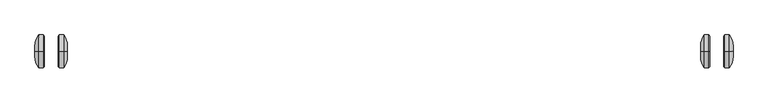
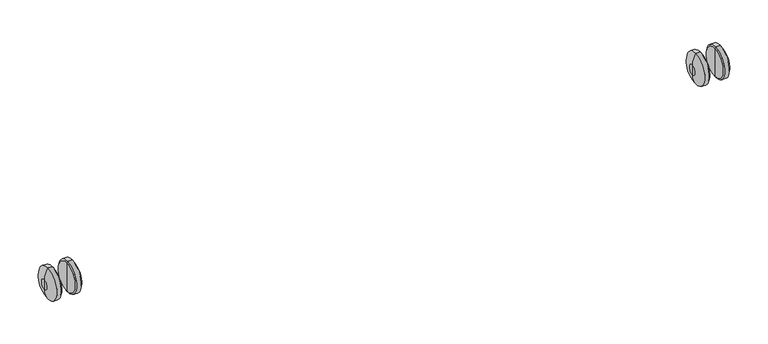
"""IFC4 building model written with IfcOpenShell, lengths in millimetres: furniture geometry, SmithSystem_AM_Table_Education_Elemental_NestAndFold_Nested_24D : 24D x 60W."""

from ifc_helpers import new_model, si_unit, point, frame, origin, place, context, project, spatial, polyline, circle_curve, ellipse_curve, trimmed, source, transform, mapped, element, save
from ifc_brep_helpers import plane_surface, cylinder_surface, revolved_surface, advanced_brep


def furniture_80580ba2(model_context):
    return source(origin(), model_context, "Body", "AdvancedBrep", [
        advanced_brep(
        [(1441.7769566, -565.7453125, 2.4213744), (1441.7769566, -565.7453125, 66.3180847), (1441.7769566, -565.7453125, 34.3697295), (1439.6062544, -565.7453125, -0.2937015), (1439.6062544, -565.7453125, 69.0331606), (1430.6015712, -565.7453125, -0.2937015), (1430.6015712, -565.7453125, 69.0331606), (1422.6841685, -565.7453125, 22.7879099), (1422.6841685, -565.7453125, 45.9515492), (1422.6841685, -565.7453125, 34.3697295)],
        [
            (0, 1, circle_curve(frame((1441.7769566, -565.7453125, 34.3697295), z_axis=(1.0, 0.0, 0.0), x_axis=(0.0, 0.0, 1.0)), 31.9483552)),
            (1, 2),
            (2, 0),
            (1, 0, circle_curve(frame((1441.7769566, -565.7453125, 34.3697295), z_axis=(1.0, 0.0, 0.0), x_axis=(0.0, 0.0, 1.0)), 31.9483552)),
            (3, 4, circle_curve(frame((1439.6062544, -565.7453125, 34.3697295), z_axis=(1.0, 0.0, 0.0), x_axis=(0.0, 0.0, 1.0)), 34.6634311)),
            (4, 1),
            (0, 3),
            (4, 3, circle_curve(frame((1439.6062544, -565.7453125, 34.3697295), z_axis=(1.0, 0.0, 0.0), x_axis=(0.0, 0.0, 1.0)), 34.6634311)),
            (5, 6, circle_curve(frame((1430.6015712, -565.7453125, 34.3697295), z_axis=(1.0, 0.0, 0.0), x_axis=(0.0, 0.0, 1.0)), 34.6634311)),
            (6, 4),
            (3, 5),
            (6, 5, circle_curve(frame((1430.6015712, -565.7453125, 34.3697295), z_axis=(1.0, 0.0, 0.0), x_axis=(0.0, 0.0, 1.0)), 34.6634311)),
            (7, 8, circle_curve(frame((1422.6841685, -565.7453125, 34.3697295), z_axis=(1.0, 0.0, 0.0), x_axis=(0.0, 0.0, 1.0)), 11.5818197)),
            (8, 6, circle_curve(frame((1460.2877916, -565.7453125, 45.9515492), z_axis=(0.0, 1.0, 0.0), x_axis=(1.0, 0.0, 0.0)), 37.6036231)),
            (5, 7, circle_curve(frame((1460.2877916, -565.7453125, 22.7879099), z_axis=(0.0, 1.0, 0.0), x_axis=(1.0, 0.0, 0.0)), 37.6036231)),
            (8, 7, circle_curve(frame((1422.6841685, -565.7453125, 34.3697295), z_axis=(1.0, 0.0, 0.0), x_axis=(0.0, 0.0, 1.0)), 11.5818197)),
            (9, 8),
            (7, 9),
        ],
        [
            plane_surface(frame((1441.7769566, -565.7453125, 34.3697295), z_axis=(1.0, 0.0, 0.0), x_axis=(0.0, 0.0, 1.0))),
            revolved_surface(polyline([(1441.7769566, -565.7453125, 66.3180847), (1439.6062544, -565.7453125, 69.0331606)]), (1422.6841685, -565.7453125, 34.3697295), (-1.0, 0.0, 0.0)),
            cylinder_surface(frame((1422.6841685, -565.7453125, 34.3697295), z_axis=(-1.0, 0.0, 0.0), x_axis=(0.0, 0.0, 1.0)), 34.6634311),
            revolved_surface(trimmed(ellipse_curve(frame((1460.2877916, -565.7453125, 45.9515492), z_axis=(0.0, -1.0, 0.0), x_axis=(1.0, 0.0, 0.0)), 37.6036231, 37.6036231), [point((1430.6015712, -565.7453125, 69.0331606))], [point((1422.6841685, -565.7453125, 45.9515492))], True, "CARTESIAN"), (1422.6841685, -565.7453125, 34.3697295), (-1.0, 0.0, 0.0)),
            plane_surface(frame((1422.6841685, -565.7453125, 34.3697295), z_axis=(-1.0, 0.0, 0.0), x_axis=(0.0, 0.0, 1.0))),
        ],
        [
            (0, [[1, 2, 3]]),
            (0, [[4, -3, -2]]),
            (1, [[5, 6, -1, 7]]),
            (1, [[8, -7, -4, -6]]),
            (2, [[9, 10, -5, 11]]),
            (2, [[12, -11, -8, -10]]),
            (3, [[13, 14, -9, 15]]),
            (3, [[16, -15, -12, -14]]),
            (4, [[17, -13, 18]]),
            (4, [[-18, -16, -17]]),
        ],
    ),
        advanced_brep(
        [(1490.4247373, -565.7453125, 22.7879099), (1490.4247373, -565.7453125, 45.9515492), (1490.4247373, -565.7453125, 34.3697295), (1482.5073346, -565.7453125, -0.2937015), (1482.5073346, -565.7453125, 69.0331606), (1473.5026514, -565.7453125, -0.2937015), (1473.5026514, -565.7453125, 69.0331606), (1471.3319492, -565.7453125, 2.4213744), (1471.3319492, -565.7453125, 66.3180847), (1471.3319492, -565.7453125, 34.3697295)],
        [
            (0, 1, circle_curve(frame((1490.4247373, -565.7453125, 34.3697295), z_axis=(1.0, 0.0, 0.0), x_axis=(0.0, 0.0, 1.0)), 11.5818197)),
            (1, 2),
            (2, 0),
            (1, 0, circle_curve(frame((1490.4247373, -565.7453125, 34.3697295), z_axis=(1.0, 0.0, 0.0), x_axis=(0.0, 0.0, 1.0)), 11.5818197)),
            (3, 4, circle_curve(frame((1482.5073346, -565.7453125, 34.3697295), z_axis=(1.0, 0.0, 0.0), x_axis=(0.0, 0.0, 1.0)), 34.6634311)),
            (4, 1, circle_curve(frame((1452.8211142, -565.7453125, 45.9515492), z_axis=(0.0, 1.0, 0.0), x_axis=(1.0, 0.0, 0.0)), 37.6036231)),
            (0, 3, circle_curve(frame((1452.8211142, -565.7453125, 22.7879099), z_axis=(0.0, 1.0, 0.0), x_axis=(1.0, 0.0, 0.0)), 37.6036231)),
            (4, 3, circle_curve(frame((1482.5073346, -565.7453125, 34.3697295), z_axis=(1.0, 0.0, 0.0), x_axis=(0.0, 0.0, 1.0)), 34.6634311)),
            (5, 6, circle_curve(frame((1473.5026514, -565.7453125, 34.3697295), z_axis=(1.0, 0.0, 0.0), x_axis=(0.0, 0.0, 1.0)), 34.6634311)),
            (6, 4),
            (3, 5),
            (6, 5, circle_curve(frame((1473.5026514, -565.7453125, 34.3697295), z_axis=(1.0, 0.0, 0.0), x_axis=(0.0, 0.0, 1.0)), 34.6634311)),
            (7, 8, circle_curve(frame((1471.3319492, -565.7453125, 34.3697295), z_axis=(1.0, 0.0, 0.0), x_axis=(0.0, 0.0, 1.0)), 31.9483552)),
            (8, 6),
            (5, 7),
            (8, 7, circle_curve(frame((1471.3319492, -565.7453125, 34.3697295), z_axis=(1.0, 0.0, 0.0), x_axis=(0.0, 0.0, 1.0)), 31.9483552)),
            (9, 8),
            (7, 9),
        ],
        [
            plane_surface(frame((1490.4247373, -565.7453125, 34.3697295), z_axis=(1.0, 0.0, 0.0), x_axis=(0.0, 0.0, 1.0))),
            revolved_surface(trimmed(ellipse_curve(frame((1452.8211142, -565.7453125, 45.9515492), z_axis=(0.0, -1.0, 0.0), x_axis=(1.0, 0.0, 0.0)), 37.6036231, 37.6036231), [point((1490.4247373, -565.7453125, 45.9515492))], [point((1482.5073346, -565.7453125, 69.0331606))], True, "CARTESIAN"), (1422.6841685, -565.7453125, 34.3697295), (-1.0, 0.0, 0.0)),
            cylinder_surface(frame((1422.6841685, -565.7453125, 34.3697295), z_axis=(-1.0, 0.0, 0.0), x_axis=(0.0, 0.0, 1.0)), 34.6634311),
            revolved_surface(polyline([(1473.5026514, -565.7453125, 69.0331606), (1471.3319492, -565.7453125, 66.3180847)]), (1422.6841685, -565.7453125, 34.3697295), (-1.0, 0.0, 0.0)),
            plane_surface(frame((1471.3319492, -565.7453125, 34.3697295), z_axis=(-1.0, 0.0, 0.0), x_axis=(0.0, 0.0, 1.0))),
        ],
        [
            (0, [[1, 2, 3]]),
            (0, [[4, -3, -2]]),
            (1, [[5, 6, -1, 7]]),
            (1, [[8, -7, -4, -6]]),
            (2, [[9, 10, -5, 11]]),
            (2, [[12, -11, -8, -10]]),
            (3, [[13, 14, -9, 15]]),
            (3, [[16, -15, -12, -14]]),
            (4, [[17, -13, 18]]),
            (4, [[-18, -16, -17]]),
        ],
    ),
        advanced_brep(
        [(101.3158315, -565.7453125, 22.7879099), (101.3158315, -565.7453125, 45.9515492), (101.3158315, -565.7453125, 34.3697295), (93.3984288, -565.7453125, -0.2937015), (93.3984288, -565.7453125, 69.0331606), (84.3937456, -565.7453125, -0.2937015), (84.3937456, -565.7453125, 69.0331606), (82.2230434, -565.7453125, 2.4213744), (82.2230434, -565.7453125, 66.3180847), (82.2230434, -565.7453125, 34.3697295)],
        [
            (0, 1, circle_curve(frame((101.3158315, -565.7453125, 34.3697295), z_axis=(1.0, 0.0, 0.0), x_axis=(0.0, 0.0, 1.0)), 11.5818197)),
            (1, 2),
            (2, 0),
            (1, 0, circle_curve(frame((101.3158315, -565.7453125, 34.3697295), z_axis=(1.0, 0.0, 0.0), x_axis=(0.0, 0.0, 1.0)), 11.5818197)),
            (3, 4, circle_curve(frame((93.3984288, -565.7453125, 34.3697295), z_axis=(1.0, 0.0, 0.0), x_axis=(0.0, 0.0, 1.0)), 34.6634311)),
            (4, 1, circle_curve(frame((63.7122084, -565.7453125, 45.9515492), z_axis=(0.0, 1.0, 0.0), x_axis=(1.0, 0.0, 0.0)), 37.6036231)),
            (0, 3, circle_curve(frame((63.7122084, -565.7453125, 22.7879099), z_axis=(0.0, 1.0, 0.0), x_axis=(1.0, 0.0, 0.0)), 37.6036231)),
            (4, 3, circle_curve(frame((93.3984288, -565.7453125, 34.3697295), z_axis=(1.0, 0.0, 0.0), x_axis=(0.0, 0.0, 1.0)), 34.6634311)),
            (5, 6, circle_curve(frame((84.3937456, -565.7453125, 34.3697295), z_axis=(1.0, 0.0, 0.0), x_axis=(0.0, 0.0, 1.0)), 34.6634311)),
            (6, 4),
            (3, 5),
            (6, 5, circle_curve(frame((84.3937456, -565.7453125, 34.3697295), z_axis=(1.0, 0.0, 0.0), x_axis=(0.0, 0.0, 1.0)), 34.6634311)),
            (7, 8, circle_curve(frame((82.2230434, -565.7453125, 34.3697295), z_axis=(1.0, 0.0, 0.0), x_axis=(0.0, 0.0, 1.0)), 31.9483552)),
            (8, 6),
            (5, 7),
            (8, 7, circle_curve(frame((82.2230434, -565.7453125, 34.3697295), z_axis=(1.0, 0.0, 0.0), x_axis=(0.0, 0.0, 1.0)), 31.9483552)),
            (9, 8),
            (7, 9),
        ],
        [
            plane_surface(frame((101.3158315, -565.7453125, 34.3697295), z_axis=(1.0, 0.0, 0.0), x_axis=(0.0, 0.0, 1.0))),
            revolved_surface(trimmed(ellipse_curve(frame((63.7122084, -565.7453125, 45.9515492), z_axis=(0.0, -1.0, 0.0), x_axis=(1.0, 0.0, 0.0)), 37.6036231, 37.6036231), [point((101.3158315, -565.7453125, 45.9515492))], [point((93.3984288, -565.7453125, 69.0331606))], True, "CARTESIAN"), (1422.6841685, -565.7453125, 34.3697295), (-1.0, 0.0, 0.0)),
            cylinder_surface(frame((1422.6841685, -565.7453125, 34.3697295), z_axis=(-1.0, 0.0, 0.0), x_axis=(0.0, 0.0, 1.0)), 34.6634311),
            revolved_surface(polyline([(84.3937456, -565.7453125, 69.0331606), (82.2230434, -565.7453125, 66.3180847)]), (1422.6841685, -565.7453125, 34.3697295), (-1.0, 0.0, 0.0)),
            plane_surface(frame((82.2230434, -565.7453125, 34.3697295), z_axis=(-1.0, 0.0, 0.0), x_axis=(0.0, 0.0, 1.0))),
        ],
        [
            (0, [[1, 2, 3]]),
            (0, [[4, -3, -2]]),
            (1, [[5, 6, -1, 7]]),
            (1, [[8, -7, -4, -6]]),
            (2, [[9, 10, -5, 11]]),
            (2, [[12, -11, -8, -10]]),
            (3, [[13, 14, -9, 15]]),
            (3, [[16, -15, -12, -14]]),
            (4, [[17, -13, 18]]),
            (4, [[-18, -16, -17]]),
        ],
    ),
        advanced_brep(
        [(52.6680508, -565.7453125, 2.4213744), (52.6680508, -565.7453125, 66.3180847), (52.6680508, -565.7453125, 34.3697295), (50.4973486, -565.7453125, -0.2937015), (50.4973486, -565.7453125, 69.0331606), (41.4926654, -565.7453125, -0.2937015), (41.4926654, -565.7453125, 69.0331606), (33.5752627, -565.7453125, 22.7879099), (33.5752627, -565.7453125, 45.9515492), (33.5752627, -565.7453125, 34.3697295)],
        [
            (0, 1, circle_curve(frame((52.6680508, -565.7453125, 34.3697295), z_axis=(1.0, 0.0, 0.0), x_axis=(0.0, 0.0, 1.0)), 31.9483552)),
            (1, 2),
            (2, 0),
            (1, 0, circle_curve(frame((52.6680508, -565.7453125, 34.3697295), z_axis=(1.0, 0.0, 0.0), x_axis=(0.0, 0.0, 1.0)), 31.9483552)),
            (3, 4, circle_curve(frame((50.4973486, -565.7453125, 34.3697295), z_axis=(1.0, 0.0, 0.0), x_axis=(0.0, 0.0, 1.0)), 34.6634311)),
            (4, 1),
            (0, 3),
            (4, 3, circle_curve(frame((50.4973486, -565.7453125, 34.3697295), z_axis=(1.0, 0.0, 0.0), x_axis=(0.0, 0.0, 1.0)), 34.6634311)),
            (5, 6, circle_curve(frame((41.4926654, -565.7453125, 34.3697295), z_axis=(1.0, 0.0, 0.0), x_axis=(0.0, 0.0, 1.0)), 34.6634311)),
            (6, 4),
            (3, 5),
            (6, 5, circle_curve(frame((41.4926654, -565.7453125, 34.3697295), z_axis=(1.0, 0.0, 0.0), x_axis=(0.0, 0.0, 1.0)), 34.6634311)),
            (7, 8, circle_curve(frame((33.5752627, -565.7453125, 34.3697295), z_axis=(1.0, 0.0, 0.0), x_axis=(0.0, 0.0, 1.0)), 11.5818197)),
            (8, 6, circle_curve(frame((71.1788858, -565.7453125, 45.9515492), z_axis=(0.0, 1.0, 0.0), x_axis=(1.0, 0.0, 0.0)), 37.6036231)),
            (5, 7, circle_curve(frame((71.1788858, -565.7453125, 22.7879099), z_axis=(0.0, 1.0, 0.0), x_axis=(1.0, 0.0, 0.0)), 37.6036231)),
            (8, 7, circle_curve(frame((33.5752627, -565.7453125, 34.3697295), z_axis=(1.0, 0.0, 0.0), x_axis=(0.0, 0.0, 1.0)), 11.5818197)),
            (9, 8),
            (7, 9),
        ],
        [
            plane_surface(frame((52.6680508, -565.7453125, 34.3697295), z_axis=(1.0, 0.0, 0.0), x_axis=(0.0, 0.0, 1.0))),
            revolved_surface(polyline([(52.6680508, -565.7453125, 66.3180847), (50.4973486, -565.7453125, 69.0331606)]), (1422.6841685, -565.7453125, 34.3697295), (-1.0, 0.0, 0.0)),
            cylinder_surface(frame((1422.6841685, -565.7453125, 34.3697295), z_axis=(-1.0, 0.0, 0.0), x_axis=(0.0, 0.0, 1.0)), 34.6634311),
            revolved_surface(trimmed(ellipse_curve(frame((71.1788858, -565.7453125, 45.9515492), z_axis=(0.0, -1.0, 0.0), x_axis=(1.0, 0.0, 0.0)), 37.6036231, 37.6036231), [point((41.4926654, -565.7453125, 69.0331606))], [point((33.5752627, -565.7453125, 45.9515492))], True, "CARTESIAN"), (1422.6841685, -565.7453125, 34.3697295), (-1.0, 0.0, 0.0)),
            plane_surface(frame((33.5752627, -565.7453125, 34.3697295), z_axis=(-1.0, 0.0, 0.0), x_axis=(0.0, 0.0, 1.0))),
        ],
        [
            (0, [[1, 2, 3]]),
            (0, [[4, -3, -2]]),
            (1, [[5, 6, -1, 7]]),
            (1, [[8, -7, -4, -6]]),
            (2, [[9, 10, -5, 11]]),
            (2, [[12, -11, -8, -10]]),
            (3, [[13, 14, -9, 15]]),
            (3, [[16, -15, -12, -14]]),
            (4, [[17, -13, 18]]),
            (4, [[-18, -16, -17]]),
        ],
    ),
    ])


if __name__ == "__main__":
    model = new_model("IFC4")
    model_context = context("Model", 3, world=origin())
    ifc_project = project(units=[si_unit("LENGTHUNIT", "METRE", prefix="MILLI")], contexts=[model_context])
    site = spatial("IfcSite", under=ifc_project)
    building = spatial("IfcBuilding", under=site)
    placement = place(None, origin())
    furniture_shape = furniture_80580ba2(model_context)
    element("IfcFurniture", 1, ObjectType="SmithSystem_AM_Table_Education_Elemental_NestAndFold_Nested_24D : 24D x 60W", at=placement, inside=building, context=model_context, shape_type="MappedRepresentation", body=[
        mapped(furniture_shape, transform((0.0, 0.0, 0.0), x_axis=(1.0, 0.0, 0.0), y_axis=(0.0, 1.0, 0.0), z_axis=(0.0, 0.0, 1.0))),
    ])
    save(model, "model.ifc")
